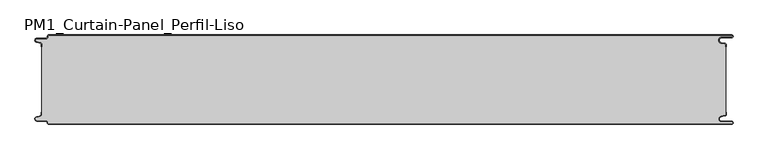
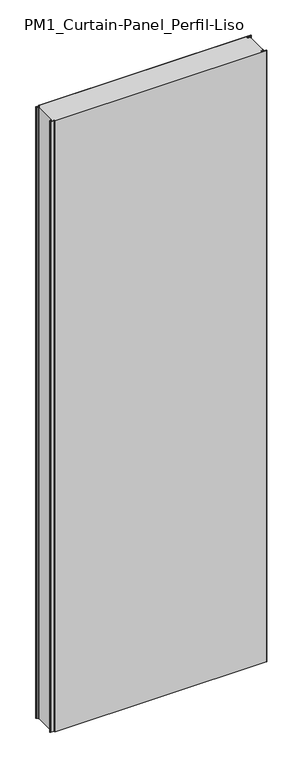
"""IFC4 building model written with IfcOpenShell, lengths in millimetres: plate geometry, PM1_Curtain-Panel_Perfil-Liso : ACH_PM1_Panel-Acústico-Sectorización_150M."""

from ifc_helpers import new_model, si_unit, point, frame, frame_2d, origin, origin_with_axes, place, context, project, spatial, polyline, circle_curve, trimmed, segment, composite_curve, outline, extrude, source, transform, mapped, element, save
from ifc_brep_helpers import plane_surface, cylinder_surface, revolved_surface, advanced_brep


def pm1_curtain_panel_perfil_liso_77e79c4d(model_context):
    return source(origin(), model_context, "Body", "SolidModel", [
        advanced_brep(
        [(583.1, 0.0, 3500.0), (-562.4, 0.0, 3500.0), (-564.4, -2.0, 3500.0), (-564.4, -3.4, 3500.0), (-566.4, -5.4, 3500.0), (-581.9, -5.4, 3500.0), (-582.7098239, -12.5077322, 3500.0), (-576.5500979, -13.929817, 3500.0), (-575.0, -15.878557, 3500.0), (-575.0, -20.0, 3500.0), (-574.2, -20.0, 3500.0), (-574.2, -15.878557, 3500.0), (-576.370137, -13.1503208, 3500.0), (-582.529863, -11.728236, 3500.0), (-581.9, -6.2, 3500.0), (-566.4, -6.2, 3500.0), (-563.6, -3.4, 3500.0), (-563.6, -2.0, 3500.0), (-562.4, -0.8, 3500.0), (583.1, -0.8, 3500.0), (583.1, -4.2, 3500.0), (566.1, -4.2, 3500.0), (565.266489, -13.7270773, 3500.0), (571.7125666, -14.8636942, 3500.0), (573.2, -16.636348, 3500.0), (573.2, -20.0, 3500.0), (574.0, -20.0, 3500.0), (574.0, -16.636348, 3500.0), (571.8514851, -14.0758478, 3500.0), (565.4054075, -12.9392309, 3500.0), (566.1, -5.0, 3500.0), (583.1, -5.0, 3500.0), (585.6, -2.5, 3500.0), (-562.4, 0.0, 0.0), (583.1, 0.0, 0.0), (585.6, -2.5, 0.0), (583.1, -5.0, 0.0), (566.1, -5.0, 0.0), (565.4054075, -12.939231, 0.0), (571.8514851, -14.075848, 0.0), (574.0, -16.636348, 0.0), (574.0, -20.0, 0.0), (573.2, -20.0, 0.0), (573.2, -16.636348, 0.0), (571.7125666, -14.863694, 0.0), (565.266489, -13.7270771, 0.0), (566.1, -4.2, 0.0), (583.1, -4.2, 0.0), (583.1, -0.8, 0.0), (-562.4, -0.8, 0.0), (-563.6, -2.0, 0.0), (-563.6, -3.4, 0.0), (-566.4, -6.2, 0.0), (-581.9, -6.2, 0.0), (-582.529863, -11.7282362, 0.0), (-576.370137, -13.150321, 0.0), (-574.2, -15.878557, 0.0), (-574.2, -20.0, 0.0), (-575.0, -20.0, 0.0), (-575.0, -15.878557, 0.0), (-576.5500978, -13.9298169, 0.0), (-582.7098239, -12.507732, 0.0), (-581.9, -5.4, 0.0), (-566.4, -5.4, 0.0), (-564.4, -3.4, 0.0), (-564.4, -2.0, 0.0)],
        [
            (0, 1),
            (1, 2, circle_curve(frame((-562.4, -2.0, 3500.0), z_axis=(0.0, 0.0, 1.0), x_axis=(1.0, 0.0, 0.0)), 2.0)),
            (2, 3),
            (3, 4, circle_curve(frame((-566.4, -3.4, 3500.0), z_axis=(0.0, 0.0, -1.0), x_axis=(1.0, 0.0, 0.0)), 2.0)),
            (4, 5),
            (5, 6, circle_curve(frame((-581.9, -9.0, 3500.0), z_axis=(0.0, 0.0, 1.0), x_axis=(1.0, 0.0, 0.0)), 3.6)),
            (6, 7),
            (7, 8, circle_curve(frame((-577.0, -15.878557, 3500.0), z_axis=(0.0, 0.0, -1.0), x_axis=(1.0, 0.0, 0.0)), 2.0)),
            (8, 9),
            (9, 10),
            (10, 11),
            (11, 12, circle_curve(frame((-577.0, -15.878557, 3500.0), z_axis=(0.0, 0.0, 1.0), x_axis=(1.0, 0.0, 0.0)), 2.8)),
            (12, 13),
            (13, 14, circle_curve(frame((-581.9, -9.0, 3500.0), z_axis=(0.0, 0.0, -1.0), x_axis=(1.0, 0.0, 0.0)), 2.8)),
            (14, 15),
            (15, 16, circle_curve(frame((-566.4, -3.4, 3500.0), z_axis=(0.0, 0.0, 1.0), x_axis=(1.0, 0.0, 0.0)), 2.8)),
            (16, 17),
            (17, 18, circle_curve(frame((-562.4, -2.0, 3500.0), z_axis=(0.0, 0.0, -1.0), x_axis=(1.0, 0.0, 0.0)), 1.2)),
            (18, 19),
            (19, 20, circle_curve(frame((583.1, -2.5, 3500.0), z_axis=(0.0, 0.0, -1.0), x_axis=(1.0, 0.0, 0.0)), 1.7)),
            (20, 21),
            (21, 22, circle_curve(frame((566.1, -9.0, 3500.0), z_axis=(0.0, 0.0, 1.0), x_axis=(1.0, 0.0, 0.0)), 4.8)),
            (22, 23),
            (23, 24, circle_curve(frame((571.4, -16.636348, 3500.0), z_axis=(0.0, 0.0, -1.0), x_axis=(1.0, 0.0, 0.0)), 1.8)),
            (24, 25),
            (25, 26),
            (26, 27),
            (27, 28, circle_curve(frame((571.4, -16.636348, 3500.0), z_axis=(0.0, 0.0, 1.0), x_axis=(1.0, 0.0, 0.0)), 2.6)),
            (28, 29),
            (29, 30, circle_curve(frame((566.1, -9.0, 3500.0), z_axis=(0.0, 0.0, -1.0), x_axis=(1.0, 0.0, 0.0)), 4.0)),
            (30, 31),
            (31, 32, circle_curve(frame((583.1, -2.5, 3500.0), z_axis=(0.0, 0.0, 1.0), x_axis=(1.0, 0.0, 0.0)), 2.5)),
            (32, 0, circle_curve(frame((583.1, -2.5, 3500.0), z_axis=(0.0, 0.0, 1.0), x_axis=(1.0, 0.0, 0.0)), 2.5)),
            (33, 34),
            (34, 35, circle_curve(frame((583.1, -2.5, 0.0), z_axis=(0.0, 0.0, -1.0), x_axis=(1.0, 0.0, 0.0)), 2.5)),
            (35, 36, circle_curve(frame((583.1, -2.5, 0.0), z_axis=(0.0, 0.0, -1.0), x_axis=(1.0, 0.0, 0.0)), 2.5)),
            (36, 37),
            (37, 38, circle_curve(frame((566.1, -9.0, 0.0), z_axis=(0.0, 0.0, 1.0), x_axis=(1.0, 0.0, 0.0)), 4.0)),
            (38, 39),
            (39, 40, circle_curve(frame((571.4, -16.636348, 0.0), z_axis=(0.0, 0.0, -1.0), x_axis=(1.0, 0.0, 0.0)), 2.6)),
            (40, 41),
            (41, 42),
            (42, 43),
            (43, 44, circle_curve(frame((571.4, -16.636348, 0.0), z_axis=(0.0, 0.0, 1.0), x_axis=(1.0, 0.0, 0.0)), 1.8)),
            (44, 45),
            (45, 46, circle_curve(frame((566.1, -9.0, 0.0), z_axis=(0.0, 0.0, -1.0), x_axis=(1.0, 0.0, 0.0)), 4.8)),
            (46, 47),
            (47, 48, circle_curve(frame((583.1, -2.5, 0.0), z_axis=(0.0, 0.0, 1.0), x_axis=(1.0, 0.0, 0.0)), 1.7)),
            (48, 49),
            (49, 50, circle_curve(frame((-562.4, -2.0, 0.0), z_axis=(0.0, 0.0, 1.0), x_axis=(1.0, 0.0, 0.0)), 1.2)),
            (50, 51),
            (51, 52, circle_curve(frame((-566.4, -3.4, 0.0), z_axis=(0.0, 0.0, -1.0), x_axis=(1.0, 0.0, 0.0)), 2.8)),
            (52, 53),
            (53, 54, circle_curve(frame((-581.9, -9.0, 0.0), z_axis=(0.0, 0.0, 1.0), x_axis=(1.0, 0.0, 0.0)), 2.8)),
            (54, 55),
            (55, 56, circle_curve(frame((-577.0, -15.878557, 0.0), z_axis=(0.0, 0.0, -1.0), x_axis=(1.0, 0.0, 0.0)), 2.8)),
            (56, 57),
            (57, 58),
            (58, 59),
            (59, 60, circle_curve(frame((-577.0, -15.878557, 0.0), z_axis=(0.0, 0.0, 1.0), x_axis=(1.0, 0.0, 0.0)), 2.0)),
            (60, 61),
            (61, 62, circle_curve(frame((-581.9, -9.0, 0.0), z_axis=(0.0, 0.0, -1.0), x_axis=(1.0, 0.0, 0.0)), 3.6)),
            (62, 63),
            (63, 64, circle_curve(frame((-566.4, -3.4, 0.0), z_axis=(0.0, 0.0, 1.0), x_axis=(1.0, 0.0, 0.0)), 2.0)),
            (64, 65),
            (65, 33, circle_curve(frame((-562.4, -2.0, 0.0), z_axis=(0.0, 0.0, -1.0), x_axis=(1.0, 0.0, 0.0)), 2.0)),
            (1, 33),
            (65, 2),
            (64, 3),
            (63, 4),
            (62, 5),
            (61, 6),
            (60, 7),
            (59, 8),
            (58, 9),
            (57, 10),
            (56, 11),
            (55, 12),
            (54, 13),
            (53, 14),
            (52, 15),
            (51, 16),
            (50, 17),
            (49, 18),
            (48, 19),
            (47, 20),
            (46, 21),
            (45, 22),
            (44, 23),
            (43, 24),
            (42, 25),
            (41, 26),
            (40, 27),
            (39, 28),
            (38, 29),
            (37, 30),
            (36, 31),
            (34, 0),
        ],
        [
            plane_surface(frame((-575.0, 0.0, 3500.0), z_axis=(0.0, 0.0, 1.0), x_axis=(0.0, 1.0, 0.0))),
            plane_surface(frame((-575.0, 0.0, 0.0), z_axis=(0.0, 0.0, -1.0), x_axis=(0.0, 1.0, 0.0))),
            cylinder_surface(frame((-562.4, -2.0, 3500.0), z_axis=(0.0, 0.0, 1.0), x_axis=(1.0, 0.0, 0.0)), 2.0),
            plane_surface(frame((-564.4, -2.0, 3500.0), z_axis=(-1.0, 0.0, 0.0), x_axis=(0.0, 0.0, -1.0))),
            revolved_surface(polyline([(-564.4, -3.4, 0.0), (-564.4, -3.4, 3500.0)]), (-566.4, -3.4, 3500.0), (0.0, 0.0, -1.0)),
            plane_surface(frame((-566.4, -5.4, 3500.0), z_axis=(0.0, 1.0, 0.0), x_axis=(0.0, 0.0, -1.0))),
            cylinder_surface(frame((-581.9, -9.0, 3500.0), z_axis=(0.0, 0.0, 1.0), x_axis=(1.0, 0.0, 0.0)), 3.6),
            plane_surface(frame((-582.7098239, -12.507732, 3500.0), z_axis=(-0.2249510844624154, -0.9743700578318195, 0.0), x_axis=(0.0, 0.0, -1.0))),
            revolved_surface(polyline([(-575.0, -15.878557, 0.0), (-575.0, -15.878557, 3500.0)]), (-577.0, -15.878557, 3500.0), (0.0, 0.0, -1.0)),
            plane_surface(frame((-575.0, -15.878557, 3500.0), z_axis=(-1.0, 0.0, 0.0), x_axis=(0.0, 0.0, -1.0))),
            plane_surface(frame((-575.0, -20.0, 3500.0), z_axis=(0.0, -1.0, 0.0), x_axis=(0.0, 0.0, -1.0))),
            plane_surface(frame((-574.2, -20.0, 3500.0), z_axis=(1.0, 0.0, 0.0), x_axis=(0.0, 0.0, -1.0))),
            cylinder_surface(frame((-577.0, -15.878557, 3500.0), z_axis=(0.0, 0.0, 1.0), x_axis=(1.0, 0.0, 0.0)), 2.8),
            plane_surface(frame((-576.370137, -13.150321, 3500.0), z_axis=(0.22495108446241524, 0.9743700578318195, 0.0), x_axis=(0.0, 0.0, -1.0))),
            revolved_surface(polyline([(-579.1, -9.0, 0.0), (-579.1, -9.0, 3500.0)]), (-581.9, -9.0, 3500.0), (0.0, 0.0, -1.0)),
            plane_surface(frame((-581.9, -6.2, 3500.0), z_axis=(0.0, -1.0, 0.0), x_axis=(0.0, 0.0, -1.0))),
            cylinder_surface(frame((-566.4, -3.4, 3500.0), z_axis=(0.0, 0.0, 1.0), x_axis=(1.0, 0.0, 0.0)), 2.8),
            plane_surface(frame((-563.6, -3.4, 3500.0), z_axis=(1.0, 0.0, 0.0), x_axis=(0.0, 0.0, -1.0))),
            revolved_surface(polyline([(-561.1999999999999, -2.0, 0.0), (-561.1999999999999, -2.0, 3500.0)]), (-562.4, -2.0, 3500.0), (0.0, 0.0, -1.0)),
            plane_surface(frame((560.890897, -0.8, 3500.0), z_axis=(0.0, -1.0, 0.0), x_axis=(0.0, 0.0, -1.0))),
            revolved_surface(polyline([(584.8000000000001, -2.5, 0.0), (584.8000000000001, -2.5, 3500.0)]), (583.1, -2.5, 3500.0), (0.0, 0.0, -1.0)),
            plane_surface(frame((583.1, -4.2, 3500.0), z_axis=(0.0, 1.0, 0.0), x_axis=(0.0, 0.0, -1.0))),
            cylinder_surface(frame((566.1, -9.0, 3500.0), z_axis=(0.0, 0.0, 1.0), x_axis=(1.0, 0.0, 0.0)), 4.8),
            plane_surface(frame((565.266489, -13.7270771, 3500.0), z_axis=(-0.1736481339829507, -0.9848077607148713, 0.0), x_axis=(0.0, 0.0, -1.0))),
            revolved_surface(polyline([(573.1999999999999, -16.636348, 0.0), (573.1999999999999, -16.636348, 3500.0)]), (571.4, -16.636348, 3500.0), (0.0, 0.0, -1.0)),
            plane_surface(frame((573.2, -16.636348, 3500.0), z_axis=(-1.0, 0.0, 0.0), x_axis=(0.0, 0.0, -1.0))),
            plane_surface(frame((573.2, -20.0, 3500.0), z_axis=(0.0, -1.0, 0.0), x_axis=(0.0, 0.0, -1.0))),
            plane_surface(frame((574.0, -20.0, 3500.0), z_axis=(1.0, 0.0, 0.0), x_axis=(0.0, 0.0, -1.0))),
            cylinder_surface(frame((571.4, -16.636348, 3500.0), z_axis=(0.0, 0.0, 1.0), x_axis=(1.0, 0.0, 0.0)), 2.6),
            plane_surface(frame((571.8514851, -14.075848, 3500.0), z_axis=(0.17364813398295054, 0.9848077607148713, 0.0), x_axis=(0.0, 0.0, -1.0))),
            revolved_surface(polyline([(570.1, -9.0, 0.0), (570.1, -9.0, 3500.0)]), (566.1, -9.0, 3500.0), (0.0, 0.0, -1.0)),
            plane_surface(frame((566.1, -5.0, 3500.0), z_axis=(0.0, -1.0, 0.0), x_axis=(0.0, 0.0, -1.0))),
            cylinder_surface(frame((583.1, -2.5, 3500.0), z_axis=(0.0, 0.0, 1.0), x_axis=(1.0, 0.0, 0.0)), 2.5),
            plane_surface(frame((510.5961529, 0.0, 3500.0), z_axis=(0.0, 1.0, 0.0), x_axis=(0.0, 0.0, -1.0))),
        ],
        [
            (0, [[1, 2, 3, 4, 5, 6, 7, 8, 9, 10, 11, 12, 13, 14, 15, 16, 17, 18, 19, 20, 21, 22, 23, 24, 25, 26, 27, 28, 29, 30, 31, 32, 33]]),
            (1, [[34, 35, 36, 37, 38, 39, 40, 41, 42, 43, 44, 45, 46, 47, 48, 49, 50, 51, 52, 53, 54, 55, 56, 57, 58, 59, 60, 61, 62, 63, 64, 65, 66]]),
            (2, [[-2, 67, -66, 68]]),
            (3, [[-3, -68, -65, 69]]),
            (4, [[-4, -69, -64, 70]]),
            (5, [[-5, -70, -63, 71]]),
            (6, [[-6, -71, -62, 72]]),
            (7, [[-7, -72, -61, 73]]),
            (8, [[-8, -73, -60, 74]]),
            (9, [[-9, -74, -59, 75]]),
            (10, [[-10, -75, -58, 76]]),
            (11, [[-11, -76, -57, 77]]),
            (12, [[-12, -77, -56, 78]]),
            (13, [[-13, -78, -55, 79]]),
            (14, [[-14, -79, -54, 80]]),
            (15, [[-15, -80, -53, 81]]),
            (16, [[-16, -81, -52, 82]]),
            (17, [[-17, -82, -51, 83]]),
            (18, [[-18, -83, -50, 84]]),
            (19, [[-19, -84, -49, 85]]),
            (20, [[-20, -85, -48, 86]]),
            (21, [[-21, -86, -47, 87]]),
            (22, [[-22, -87, -46, 88]]),
            (23, [[-23, -88, -45, 89]]),
            (24, [[-24, -89, -44, 90]]),
            (25, [[-25, -90, -43, 91]]),
            (26, [[-26, -91, -42, 92]]),
            (27, [[-27, -92, -41, 93]]),
            (28, [[-28, -93, -40, 94]]),
            (29, [[-29, -94, -39, 95]]),
            (30, [[-30, -95, -38, 96]]),
            (31, [[-31, -96, -37, 97]]),
            (32, [[-97, -36, -35, 98, -33, -32]]),
            (33, [[-1, -98, -34, -67]]),
        ],
    ),
        extrude(outline(composite_curve([segment(polyline([(-574.2, -134.1214426), (-574.2, -15.8785573)]), True, "CONTINUOUS"), segment(trimmed(circle_curve(frame_2d((-577.0, -15.8785573)), 2.8), [point((-574.2, -15.8785573))], [point((-576.370137, -13.1503212))], True, "CARTESIAN"), True, "CONTINUOUS"), segment(polyline([(-576.370137, -13.1503212), (-582.5298631, -11.7282362)]), True, "CONTINUOUS"), segment(trimmed(circle_curve(frame_2d((-581.9, -9.0)), 2.8), [point((-582.5298631, -11.7282362))], [point((-581.9, -6.2))], False, "CARTESIAN"), True, "CONTINUOUS"), segment(polyline([(-581.9, -6.2), (-566.4000001, -6.2)]), True, "CONTINUOUS"), segment(trimmed(circle_curve(frame_2d((-566.4000001, -3.4)), 2.8), [point((-566.4000001, -6.2))], [point((-563.6000001, -3.4))], True, "CARTESIAN"), True, "CONTINUOUS"), segment(polyline([(-563.6000001, -3.4), (-563.6000001, -2.0)]), True, "CONTINUOUS"), segment(trimmed(circle_curve(frame_2d((-562.4000001, -2.0)), 1.2), [point((-563.6000001, -2.0))], [point((-562.4000001, -0.8))], False, "CARTESIAN"), True, "CONTINUOUS"), segment(polyline([(-562.4000001, -0.8), (583.1, -0.8)]), True, "CONTINUOUS"), segment(trimmed(circle_curve(frame_2d((583.1, -2.5)), 1.7), [point((583.1, -0.8))], [point((583.1, -4.2))], False, "CARTESIAN"), True, "CONTINUOUS"), segment(polyline([(583.1, -4.2), (566.1, -4.2)]), True, "CONTINUOUS"), segment(trimmed(circle_curve(frame_2d((566.1, -9.0)), 4.8), [point((566.1, -4.2))], [point((565.2664883, -13.7270771))], True, "CARTESIAN"), True, "CONTINUOUS"), segment(polyline([(565.2664883, -13.7270771), (571.7125668, -14.8636953)]), True, "CONTINUOUS"), segment(trimmed(circle_curve(frame_2d((571.4, -16.6363492)), 1.8), [point((571.7125668, -14.8636953))], [point((573.2, -16.6363492))], False, "CARTESIAN"), True, "CONTINUOUS"), segment(polyline([(573.2, -16.6363492), (573.2, -133.3636508)]), True, "CONTINUOUS"), segment(trimmed(circle_curve(frame_2d((571.4, -133.3636508)), 1.8), [point((573.2, -133.3636508))], [point((571.7125668, -135.1363047))], False, "CARTESIAN"), True, "CONTINUOUS"), segment(polyline([(571.7125668, -135.1363047), (565.2664883, -136.2729229)]), True, "CONTINUOUS"), segment(trimmed(circle_curve(frame_2d((566.1, -141.0)), 4.8), [point((565.2664883, -136.2729229))], [point((566.1, -145.8))], True, "CARTESIAN"), True, "CONTINUOUS"), segment(polyline([(566.1, -145.8), (583.1, -145.8)]), True, "CONTINUOUS"), segment(trimmed(circle_curve(frame_2d((583.1, -147.5)), 1.7), [point((583.1, -145.8))], [point((583.1, -149.2))], False, "CARTESIAN"), True, "CONTINUOUS"), segment(polyline([(583.1, -149.2), (-562.4000001, -149.2)]), True, "CONTINUOUS"), segment(trimmed(circle_curve(frame_2d((-562.4000001, -148.0)), 1.2), [point((-562.4000001, -149.2))], [point((-563.6000001, -148.0))], False, "CARTESIAN"), True, "CONTINUOUS"), segment(polyline([(-563.6000001, -148.0), (-563.6000001, -146.6)]), True, "CONTINUOUS"), segment(trimmed(circle_curve(frame_2d((-566.4000001, -146.6)), 2.8), [point((-563.6000001, -146.6))], [point((-566.4000001, -143.8))], True, "CARTESIAN"), True, "CONTINUOUS"), segment(polyline([(-566.4000001, -143.8), (-581.9, -143.8)]), True, "CONTINUOUS"), segment(trimmed(circle_curve(frame_2d((-581.9, -141.0)), 2.8), [point((-581.9, -143.8))], [point((-582.5298631, -138.2717638))], False, "CARTESIAN"), True, "CONTINUOUS"), segment(polyline([(-582.5298631, -138.2717638), (-576.370137, -136.8496788)]), True, "CONTINUOUS"), segment(trimmed(circle_curve(frame_2d((-577.0, -134.1214426)), 2.8), [point((-576.370137, -136.8496788))], [point((-574.2, -134.1214426))], True, "CARTESIAN"), True, "CONTINUOUS")], self_intersect=False)), origin_with_axes(), (0.0, 0.0, 1.0), 3500.0),
        advanced_brep(
        [(-562.4, -150.0, 3500.0), (583.1, -150.0, 3500.0), (585.6, -147.5, 3500.0), (583.1, -145.0, 3500.0), (566.1, -145.0, 3500.0), (565.4054075, -137.060769, 3500.0), (571.8514851, -135.924152, 3500.0), (574.0, -133.363652, 3500.0), (574.0, -130.0, 3500.0), (573.2, -130.0, 3500.0), (573.2, -133.363652, 3500.0), (571.7125666, -135.136306, 3500.0), (565.266489, -136.2729229, 3500.0), (566.1, -145.8, 3500.0), (583.1, -145.8, 3500.0), (583.1, -149.2, 3500.0), (-562.4, -149.2, 3500.0), (-563.6, -148.0, 3500.0), (-563.6, -146.6, 3500.0), (-566.4, -143.8, 3500.0), (-581.9, -143.8, 3500.0), (-582.529863, -138.2717638, 3500.0), (-576.370137, -136.849679, 3500.0), (-574.2, -134.121443, 3500.0), (-574.2, -130.0, 3500.0), (-575.0, -130.0, 3500.0), (-575.0, -134.121443, 3500.0), (-576.5500978, -136.0701831, 3500.0), (-582.7098239, -137.492268, 3500.0), (-581.9, -144.6, 3500.0), (-566.4, -144.6, 3500.0), (-564.4, -146.6, 3500.0), (-564.4, -148.0, 3500.0), (583.1, -150.0, 0.0), (-562.4, -150.0, 0.0), (-564.4, -148.0, 0.0), (-564.4, -146.6, 0.0), (-566.4, -144.6, 0.0), (-581.9, -144.6, 0.0), (-582.7098239, -137.4922678, 0.0), (-576.5500979, -136.070183, 0.0), (-575.0, -134.121443, 0.0), (-575.0, -130.0, 0.0), (-574.2, -130.0, 0.0), (-574.2, -134.121443, 0.0), (-576.370137, -136.8496792, 0.0), (-582.529863, -138.271764, 0.0), (-581.9, -143.8, 0.0), (-566.4, -143.8, 0.0), (-563.6, -146.6, 0.0), (-563.6, -148.0, 0.0), (-562.4, -149.2, 0.0), (583.1, -149.2, 0.0), (583.1, -145.8, 0.0), (566.1, -145.8, 0.0), (565.266489, -136.2729227, 0.0), (571.7125666, -135.1363058, 0.0), (573.2, -133.363652, 0.0), (573.2, -130.0, 0.0), (574.0, -130.0, 0.0), (574.0, -133.363652, 0.0), (571.8514851, -135.9241522, 0.0), (565.4054075, -137.0607691, 0.0), (566.1, -145.0, 0.0), (583.1, -145.0, 0.0), (585.6, -147.5, 0.0)],
        [
            (0, 1),
            (1, 2, circle_curve(frame((583.1, -147.5, 3500.0), z_axis=(0.0, 0.0, 1.0), x_axis=(1.0, 0.0, 0.0)), 2.5)),
            (2, 3, circle_curve(frame((583.1, -147.5, 3500.0), z_axis=(0.0, 0.0, 1.0), x_axis=(1.0, 0.0, 0.0)), 2.5)),
            (3, 4),
            (4, 5, circle_curve(frame((566.1, -141.0, 3500.0), z_axis=(0.0, 0.0, -1.0), x_axis=(1.0, 0.0, 0.0)), 4.0)),
            (5, 6),
            (6, 7, circle_curve(frame((571.4, -133.363652, 3500.0), z_axis=(0.0, 0.0, 1.0), x_axis=(1.0, 0.0, 0.0)), 2.6)),
            (7, 8),
            (8, 9),
            (9, 10),
            (10, 11, circle_curve(frame((571.4, -133.363652, 3500.0), z_axis=(0.0, 0.0, -1.0), x_axis=(1.0, 0.0, 0.0)), 1.8)),
            (11, 12),
            (12, 13, circle_curve(frame((566.1, -141.0, 3500.0), z_axis=(0.0, 0.0, 1.0), x_axis=(1.0, 0.0, 0.0)), 4.8)),
            (13, 14),
            (14, 15, circle_curve(frame((583.1, -147.5, 3500.0), z_axis=(0.0, 0.0, -1.0), x_axis=(1.0, 0.0, 0.0)), 1.7)),
            (15, 16),
            (16, 17, circle_curve(frame((-562.4, -148.0, 3500.0), z_axis=(0.0, 0.0, -1.0), x_axis=(1.0, 0.0, 0.0)), 1.2)),
            (17, 18),
            (18, 19, circle_curve(frame((-566.4, -146.6, 3500.0), z_axis=(0.0, 0.0, 1.0), x_axis=(1.0, 0.0, 0.0)), 2.8)),
            (19, 20),
            (20, 21, circle_curve(frame((-581.9, -141.0, 3500.0), z_axis=(0.0, 0.0, -1.0), x_axis=(1.0, 0.0, 0.0)), 2.8)),
            (21, 22),
            (22, 23, circle_curve(frame((-577.0, -134.121443, 3500.0), z_axis=(0.0, 0.0, 1.0), x_axis=(1.0, 0.0, 0.0)), 2.8)),
            (23, 24),
            (24, 25),
            (25, 26),
            (26, 27, circle_curve(frame((-577.0, -134.121443, 3500.0), z_axis=(0.0, 0.0, -1.0), x_axis=(1.0, 0.0, 0.0)), 2.0)),
            (27, 28),
            (28, 29, circle_curve(frame((-581.9, -141.0, 3500.0), z_axis=(0.0, 0.0, 1.0), x_axis=(1.0, 0.0, 0.0)), 3.6)),
            (29, 30),
            (30, 31, circle_curve(frame((-566.4, -146.6, 3500.0), z_axis=(0.0, 0.0, -1.0), x_axis=(1.0, 0.0, 0.0)), 2.0)),
            (31, 32),
            (32, 0, circle_curve(frame((-562.4, -148.0, 3500.0), z_axis=(0.0, 0.0, 1.0), x_axis=(1.0, 0.0, 0.0)), 2.0)),
            (33, 34),
            (34, 35, circle_curve(frame((-562.4, -148.0, 0.0), z_axis=(0.0, 0.0, -1.0), x_axis=(1.0, 0.0, 0.0)), 2.0)),
            (35, 36),
            (36, 37, circle_curve(frame((-566.4, -146.6, 0.0), z_axis=(0.0, 0.0, 1.0), x_axis=(1.0, 0.0, 0.0)), 2.0)),
            (37, 38),
            (38, 39, circle_curve(frame((-581.9, -141.0, 0.0), z_axis=(0.0, 0.0, -1.0), x_axis=(1.0, 0.0, 0.0)), 3.6)),
            (39, 40),
            (40, 41, circle_curve(frame((-577.0, -134.121443, 0.0), z_axis=(0.0, 0.0, 1.0), x_axis=(1.0, 0.0, 0.0)), 2.0)),
            (41, 42),
            (42, 43),
            (43, 44),
            (44, 45, circle_curve(frame((-577.0, -134.121443, 0.0), z_axis=(0.0, 0.0, -1.0), x_axis=(1.0, 0.0, 0.0)), 2.8)),
            (45, 46),
            (46, 47, circle_curve(frame((-581.9, -141.0, 0.0), z_axis=(0.0, 0.0, 1.0), x_axis=(1.0, 0.0, 0.0)), 2.8)),
            (47, 48),
            (48, 49, circle_curve(frame((-566.4, -146.6, 0.0), z_axis=(0.0, 0.0, -1.0), x_axis=(1.0, 0.0, 0.0)), 2.8)),
            (49, 50),
            (50, 51, circle_curve(frame((-562.4, -148.0, 0.0), z_axis=(0.0, 0.0, 1.0), x_axis=(1.0, 0.0, 0.0)), 1.2)),
            (51, 52),
            (52, 53, circle_curve(frame((583.1, -147.5, 0.0), z_axis=(0.0, 0.0, 1.0), x_axis=(1.0, 0.0, 0.0)), 1.7)),
            (53, 54),
            (54, 55, circle_curve(frame((566.1, -141.0, 0.0), z_axis=(0.0, 0.0, -1.0), x_axis=(1.0, 0.0, 0.0)), 4.8)),
            (55, 56),
            (56, 57, circle_curve(frame((571.4, -133.363652, 0.0), z_axis=(0.0, 0.0, 1.0), x_axis=(1.0, 0.0, 0.0)), 1.8)),
            (57, 58),
            (58, 59),
            (59, 60),
            (60, 61, circle_curve(frame((571.4, -133.363652, 0.0), z_axis=(0.0, 0.0, -1.0), x_axis=(1.0, 0.0, 0.0)), 2.6)),
            (61, 62),
            (62, 63, circle_curve(frame((566.1, -141.0, 0.0), z_axis=(0.0, 0.0, 1.0), x_axis=(1.0, 0.0, 0.0)), 4.0)),
            (63, 64),
            (64, 65, circle_curve(frame((583.1, -147.5, 0.0), z_axis=(0.0, 0.0, -1.0), x_axis=(1.0, 0.0, 0.0)), 2.5)),
            (65, 33, circle_curve(frame((583.1, -147.5, 0.0), z_axis=(0.0, 0.0, -1.0), x_axis=(1.0, 0.0, 0.0)), 2.5)),
            (0, 34),
            (33, 1),
            (64, 3),
            (63, 4),
            (62, 5),
            (61, 6),
            (60, 7),
            (59, 8),
            (58, 9),
            (57, 10),
            (56, 11),
            (55, 12),
            (54, 13),
            (53, 14),
            (52, 15),
            (51, 16),
            (50, 17),
            (49, 18),
            (48, 19),
            (47, 20),
            (46, 21),
            (45, 22),
            (44, 23),
            (43, 24),
            (42, 25),
            (41, 26),
            (40, 27),
            (39, 28),
            (38, 29),
            (37, 30),
            (36, 31),
            (35, 32),
        ],
        [
            plane_surface(frame((-575.0, -150.0, 3500.0), z_axis=(0.0, 0.0, 1.0), x_axis=(0.0, 1.0, 0.0))),
            plane_surface(frame((-575.0, -150.0, 0.0), z_axis=(0.0, 0.0, -1.0), x_axis=(0.0, 1.0, 0.0))),
            plane_surface(frame((560.890897, -150.0, 3500.0), z_axis=(0.0, -1.0, 0.0), x_axis=(0.0, 0.0, -1.0))),
            cylinder_surface(frame((583.1, -147.5, 3500.0), z_axis=(0.0, 0.0, 1.0), x_axis=(1.0, 0.0, 0.0)), 2.5),
            plane_surface(frame((583.1, -145.0, 3500.0), z_axis=(0.0, 1.0, 0.0), x_axis=(0.0, 0.0, -1.0))),
            revolved_surface(polyline([(570.1, -141.0, 0.0), (570.1, -141.0, 3500.0)]), (566.1, -141.0, 3500.0), (0.0, 0.0, -1.0)),
            plane_surface(frame((565.4054075, -137.0607691, 3500.0), z_axis=(0.17364813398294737, -0.9848077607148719, 0.0), x_axis=(0.0, 0.0, -1.0))),
            cylinder_surface(frame((571.4, -133.363652, 3500.0), z_axis=(0.0, 0.0, 1.0), x_axis=(1.0, 0.0, 0.0)), 2.6),
            plane_surface(frame((574.0, -133.363652, 3500.0), z_axis=(1.0, 0.0, 0.0), x_axis=(0.0, 0.0, -1.0))),
            plane_surface(frame((574.0, -130.0, 3500.0), z_axis=(0.0, 1.0, 0.0), x_axis=(0.0, 0.0, -1.0))),
            plane_surface(frame((573.2, -130.0, 3500.0), z_axis=(-1.0, 0.0, 0.0), x_axis=(0.0, 0.0, -1.0))),
            revolved_surface(polyline([(573.1999999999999, -133.363652, 0.0), (573.1999999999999, -133.363652, 3500.0)]), (571.4, -133.363652, 3500.0), (0.0, 0.0, -1.0)),
            plane_surface(frame((571.7125666, -135.1363058, 3500.0), z_axis=(-0.17364813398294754, 0.9848077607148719, 0.0), x_axis=(0.0, 0.0, -1.0))),
            cylinder_surface(frame((566.1, -141.0, 3500.0), z_axis=(0.0, 0.0, 1.0), x_axis=(1.0, 0.0, 0.0)), 4.8),
            plane_surface(frame((566.1, -145.8, 3500.0), z_axis=(0.0, -1.0, 0.0), x_axis=(0.0, 0.0, -1.0))),
            revolved_surface(polyline([(584.8000000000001, -147.5, 0.0), (584.8000000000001, -147.5, 3500.0)]), (583.1, -147.5, 3500.0), (0.0, 0.0, -1.0)),
            plane_surface(frame((510.8105122, -149.2, 3500.0), z_axis=(0.0, 1.0, 0.0), x_axis=(0.0, 0.0, -1.0))),
            revolved_surface(polyline([(-561.1999999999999, -148.0, 0.0), (-561.1999999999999, -148.0, 3500.0)]), (-562.4, -148.0, 3500.0), (0.0, 0.0, -1.0)),
            plane_surface(frame((-563.6, -148.0, 3500.0), z_axis=(1.0, 0.0, 0.0), x_axis=(0.0, 0.0, -1.0))),
            cylinder_surface(frame((-566.4, -146.6, 3500.0), z_axis=(0.0, 0.0, 1.0), x_axis=(1.0, 0.0, 0.0)), 2.8),
            plane_surface(frame((-566.4, -143.8, 3500.0), z_axis=(0.0, 1.0, 0.0), x_axis=(0.0, 0.0, -1.0))),
            revolved_surface(polyline([(-579.1, -141.0, 0.0), (-579.1, -141.0, 3500.0)]), (-581.9, -141.0, 3500.0), (0.0, 0.0, -1.0)),
            plane_surface(frame((-582.529863, -138.271764, 3500.0), z_axis=(0.2249510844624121, -0.9743700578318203, 0.0), x_axis=(0.0, 0.0, -1.0))),
            cylinder_surface(frame((-577.0, -134.121443, 3500.0), z_axis=(0.0, 0.0, 1.0), x_axis=(1.0, 0.0, 0.0)), 2.8),
            plane_surface(frame((-574.2, -134.121443, 3500.0), z_axis=(1.0, 0.0, 0.0), x_axis=(0.0, 0.0, -1.0))),
            plane_surface(frame((-574.2, -130.0, 3500.0), z_axis=(0.0, 1.0, 0.0), x_axis=(0.0, 0.0, -1.0))),
            plane_surface(frame((-575.0, -130.0, 3500.0), z_axis=(-1.0, 0.0, 0.0), x_axis=(0.0, 0.0, -1.0))),
            revolved_surface(polyline([(-575.0, -134.121443, 0.0), (-575.0, -134.121443, 3500.0)]), (-577.0, -134.121443, 3500.0), (0.0, 0.0, -1.0)),
            plane_surface(frame((-576.5500979, -136.070183, 3500.0), z_axis=(-0.22495108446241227, 0.9743700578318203, 0.0), x_axis=(0.0, 0.0, -1.0))),
            cylinder_surface(frame((-581.9, -141.0, 3500.0), z_axis=(0.0, 0.0, 1.0), x_axis=(1.0, 0.0, 0.0)), 3.6),
            plane_surface(frame((-581.9, -144.6, 3500.0), z_axis=(0.0, -1.0, 0.0), x_axis=(0.0, 0.0, -1.0))),
            revolved_surface(polyline([(-564.4, -146.6, 0.0), (-564.4, -146.6, 3500.0)]), (-566.4, -146.6, 3500.0), (0.0, 0.0, -1.0)),
            plane_surface(frame((-564.4, -146.6, 3500.0), z_axis=(-1.0, 0.0, 0.0), x_axis=(0.0, 0.0, -1.0))),
            cylinder_surface(frame((-562.4, -148.0, 3500.0), z_axis=(0.0, 0.0, 1.0), x_axis=(1.0, 0.0, 0.0)), 2.0),
        ],
        [
            (0, [[1, 2, 3, 4, 5, 6, 7, 8, 9, 10, 11, 12, 13, 14, 15, 16, 17, 18, 19, 20, 21, 22, 23, 24, 25, 26, 27, 28, 29, 30, 31, 32, 33]]),
            (1, [[34, 35, 36, 37, 38, 39, 40, 41, 42, 43, 44, 45, 46, 47, 48, 49, 50, 51, 52, 53, 54, 55, 56, 57, 58, 59, 60, 61, 62, 63, 64, 65, 66]]),
            (2, [[-1, 67, -34, 68]]),
            (3, [[-68, -66, -65, 69, -3, -2]]),
            (4, [[-4, -69, -64, 70]]),
            (5, [[-5, -70, -63, 71]]),
            (6, [[-6, -71, -62, 72]]),
            (7, [[-7, -72, -61, 73]]),
            (8, [[-8, -73, -60, 74]]),
            (9, [[-9, -74, -59, 75]]),
            (10, [[-10, -75, -58, 76]]),
            (11, [[-11, -76, -57, 77]]),
            (12, [[-12, -77, -56, 78]]),
            (13, [[-13, -78, -55, 79]]),
            (14, [[-14, -79, -54, 80]]),
            (15, [[-15, -80, -53, 81]]),
            (16, [[-16, -81, -52, 82]]),
            (17, [[-17, -82, -51, 83]]),
            (18, [[-18, -83, -50, 84]]),
            (19, [[-19, -84, -49, 85]]),
            (20, [[-20, -85, -48, 86]]),
            (21, [[-21, -86, -47, 87]]),
            (22, [[-22, -87, -46, 88]]),
            (23, [[-23, -88, -45, 89]]),
            (24, [[-24, -89, -44, 90]]),
            (25, [[-25, -90, -43, 91]]),
            (26, [[-26, -91, -42, 92]]),
            (27, [[-27, -92, -41, 93]]),
            (28, [[-28, -93, -40, 94]]),
            (29, [[-29, -94, -39, 95]]),
            (30, [[-30, -95, -38, 96]]),
            (31, [[-31, -96, -37, 97]]),
            (32, [[-32, -97, -36, 98]]),
            (33, [[-33, -98, -35, -67]]),
        ],
    ),
    ])


if __name__ == "__main__":
    model = new_model("IFC4")
    model_context = context("Model", 3, world=origin())
    ifc_project = project(units=[si_unit("LENGTHUNIT", "METRE", prefix="MILLI")], contexts=[model_context])
    site = spatial("IfcSite", under=ifc_project)
    building = spatial("IfcBuilding", under=site)
    placement = place(None, origin())
    pm1_curtain_panel_perfil_liso_shape = pm1_curtain_panel_perfil_liso_77e79c4d(model_context)
    element("IfcPlate", 1, ObjectType="PM1_Curtain-Panel_Perfil-Liso : ACH_PM1_Panel-Acústico-Sectorización_150M", at=placement, inside=building, context=model_context, shape_type="MappedRepresentation", body=[
        mapped(pm1_curtain_panel_perfil_liso_shape, transform((0.0, 0.0, 0.0), x_axis=(1.0, 0.0, 0.0), y_axis=(0.0, 1.0, 0.0), z_axis=(0.0, 0.0, 1.0))),
    ])
    save(model, "model.ifc")
